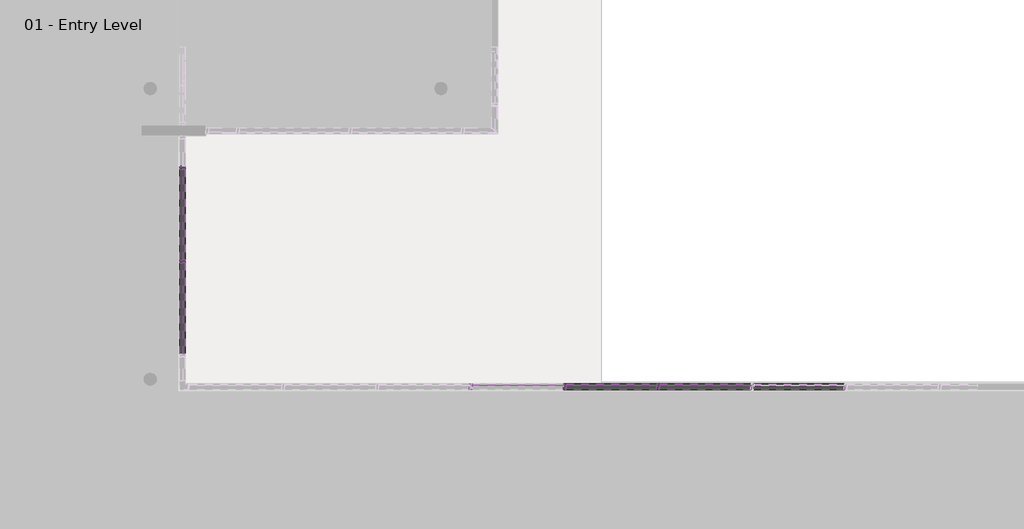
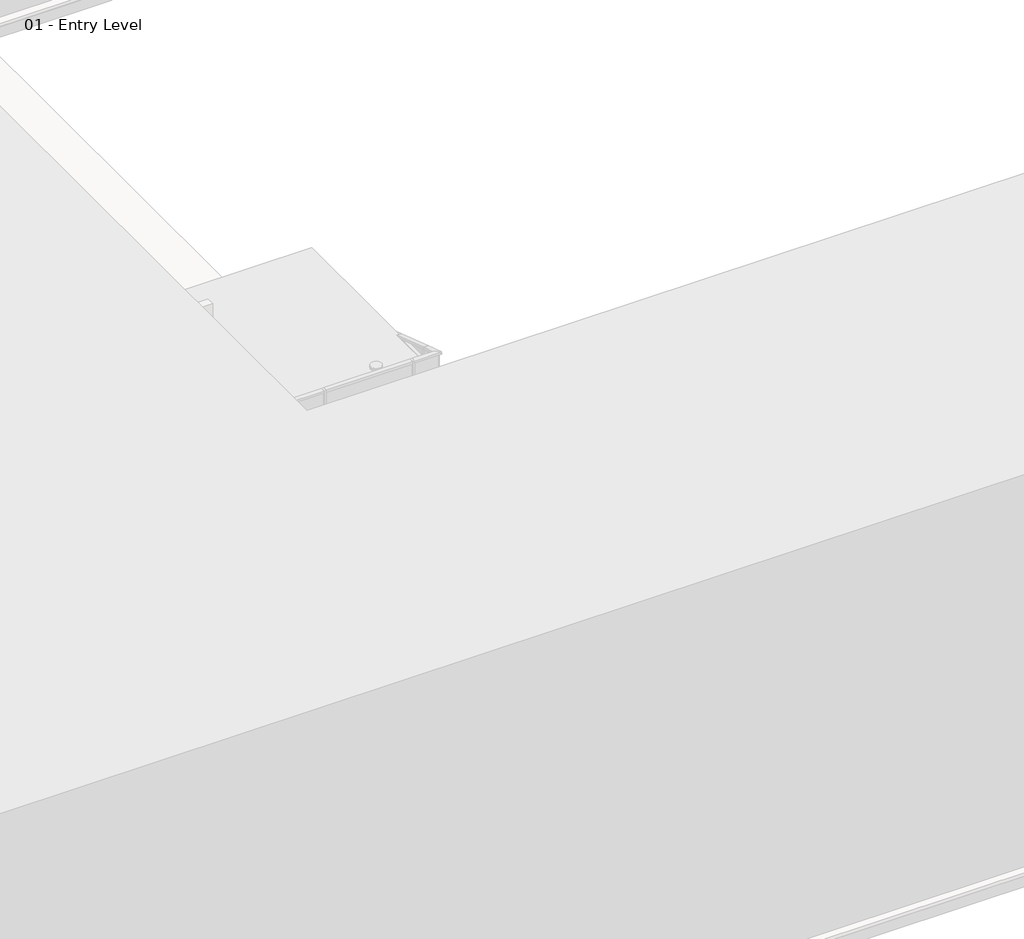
# One storey, part 10 of 35: 87 members, 45 plates.
"""IFC4 building model written with IfcOpenShell, lengths in millimetres."""

from ifc_helpers import new_model, si_unit, origin, place, context, project, spatial, transform, mapped, element, save
from components import member_2b49869a, member_391b434c, member_9e90ae50, member_e5d39754, system_panel_glazed_1b9d6098, system_panel_glazed_70da479d

model = new_model("IFC4")

# Units and contexts
model_context = context("Model", 3, world=origin())
ifc_project = project(units=[si_unit("LENGTHUNIT", "METRE", prefix="MILLI")], contexts=[model_context])

# Site, building, storey
site = spatial("IfcSite", under=ifc_project)
building = spatial("IfcBuilding", under=site)
storey = spatial("IfcBuildingStorey", under=building, Name="01 - Entry Level", Elevation=0.0)

# Members
placement = place(None, origin())
member_shape = member_2b49869a(model_context)
element("IfcMember", 1, ObjectType="Rectangular Mullion : 2.5\" x 5\" rectangular", at=placement, inside=storey, context=model_context, shape_type="MappedRepresentation", body=[
    mapped(member_shape, transform((27496.4207476, 11001.3, 9753.6), x_axis=(-1.0, 0.0, 0.0), y_axis=(0.0, 1.0, 0.0), z_axis=(0.0, 0.0, -1.0))),
])
element("IfcMember", 2, ObjectType="Rectangular Mullion : 2.5\" x 5\" rectangular", at=placement, inside=storey, context=model_context, shape_type="MappedRepresentation", body=[
    mapped(member_shape, transform((25464.4207476, 11001.3, 9753.6), x_axis=(-1.0, 0.0, 0.0), y_axis=(0.0, 1.0, 0.0), z_axis=(0.0, 0.0, -1.0))),
])
element("IfcMember", 3, ObjectType="Rectangular Mullion : 2.5\" x 5\" rectangular", at=placement, inside=storey, context=model_context, shape_type="MappedRepresentation", body=[
    mapped(member_shape, transform((23432.4207476, 11001.3, 9753.6), x_axis=(-1.0, 0.0, 0.0), y_axis=(0.0, 1.0, 0.0), z_axis=(0.0, 0.0, -1.0))),
])
element("IfcMember", 4, ObjectType="Rectangular Mullion : 2.5\" x 5\" rectangular", at=placement, inside=storey, context=model_context, shape_type="MappedRepresentation", body=[
    mapped(member_shape, transform((17184.0207476, 13719.1, 9753.6), x_axis=(0.0, 1.0, 0.0), y_axis=(1.0, 0.0, 0.0), z_axis=(0.0, 0.0, -1.0))),
])
element("IfcMember", 5, ObjectType="Rectangular Mullion : 2.5\" x 5\" rectangular", at=placement, inside=storey, context=model_context, shape_type="MappedRepresentation", body=[
    mapped(member_shape, transform((17184.0207476, 15751.1, 9753.6), x_axis=(0.0, 1.0, 0.0), y_axis=(1.0, 0.0, 0.0), z_axis=(0.0, 0.0, -1.0))),
])
member_2_shape = member_391b434c(model_context)
element("IfcMember", 6, ObjectType="Rectangular Mullion : 2.5\" x 5\" rectangular", at=placement, inside=storey, context=model_context, shape_type="MappedRepresentation", body=[
    mapped(member_2_shape, transform((29560.1707476, 11001.3, 10972.8), x_axis=(0.0, 0.0, 1.0), y_axis=(0.0, 1.0, 0.0), z_axis=(-1.0, 0.0, 0.0))),
])
element("IfcMember", 7, ObjectType="Rectangular Mullion : 2.5\" x 5\" rectangular", at=placement, inside=storey, context=model_context, shape_type="MappedRepresentation", body=[
    mapped(member_2_shape, transform((27528.1707476, 11001.3, 10972.8), x_axis=(0.0, 0.0, 1.0), y_axis=(0.0, 1.0, 0.0), z_axis=(-1.0, 0.0, 0.0))),
])
element("IfcMember", 8, ObjectType="Rectangular Mullion : 2.5\" x 5\" rectangular", at=placement, inside=storey, context=model_context, shape_type="MappedRepresentation", body=[
    mapped(member_2_shape, transform((25496.1707476, 11001.3, 10972.8), x_axis=(0.0, 0.0, 1.0), y_axis=(0.0, 1.0, 0.0), z_axis=(-1.0, 0.0, 0.0))),
])
element("IfcMember", 9, ObjectType="Rectangular Mullion : 2.5\" x 5\" rectangular", at=placement, inside=storey, context=model_context, shape_type="MappedRepresentation", body=[
    mapped(member_2_shape, transform((17184.0207476, 13687.35, 10972.8), x_axis=(0.0, 0.0, 1.0), y_axis=(1.0, 0.0, 0.0), z_axis=(0.0, 1.0, 0.0))),
])
element("IfcMember", 10, ObjectType="Rectangular Mullion : 2.5\" x 5\" rectangular", at=placement, inside=storey, context=model_context, shape_type="MappedRepresentation", body=[
    mapped(member_2_shape, transform((17184.0207476, 15719.35, 10972.8), x_axis=(0.0, 0.0, 1.0), y_axis=(1.0, 0.0, 0.0), z_axis=(0.0, 1.0, 0.0))),
])
element("IfcMember", 11, ObjectType="Rectangular Mullion : 2.5\" x 5\" rectangular", at=placement, inside=storey, context=model_context, shape_type="MappedRepresentation", body=[
    mapped(member_2_shape, transform((29496.6707476, 11001.3, 0.0), x_axis=(0.0, 0.0, -1.0), y_axis=(0.0, 1.0, 0.0), z_axis=(1.0, 0.0, 0.0))),
])
element("IfcMember", 12, ObjectType="Rectangular Mullion : 2.5\" x 5\" rectangular", at=placement, inside=storey, context=model_context, shape_type="MappedRepresentation", body=[
    mapped(member_2_shape, transform((27464.6707476, 11001.3, 0.0), x_axis=(0.0, 0.0, -1.0), y_axis=(0.0, 1.0, 0.0), z_axis=(1.0, 0.0, 0.0))),
])
element("IfcMember", 13, ObjectType="Rectangular Mullion : 2.5\" x 5\" rectangular", at=placement, inside=storey, context=model_context, shape_type="MappedRepresentation", body=[
    mapped(member_2_shape, transform((25432.6707476, 11001.3, 0.0), x_axis=(0.0, 0.0, -1.0), y_axis=(0.0, 1.0, 0.0), z_axis=(1.0, 0.0, 0.0))),
])
element("IfcMember", 14, ObjectType="Rectangular Mullion : 2.5\" x 5\" rectangular", at=placement, inside=storey, context=model_context, shape_type="MappedRepresentation", body=[
    mapped(member_2_shape, transform((17184.0207476, 13750.85, 0.0), x_axis=(0.0, 0.0, -1.0), y_axis=(1.0, 0.0, 0.0), z_axis=(0.0, -1.0, 0.0))),
])
member_3_shape = member_9e90ae50(model_context)
element("IfcMember", 15, ObjectType="Rectangular Mullion : 2.5\" x 5\" rectangular", at=placement, inside=storey, context=model_context, shape_type="MappedRepresentation", body=[
    mapped(member_3_shape, transform((29560.1707476, 11001.3, 1219.2), x_axis=(0.0, 0.0, 1.0), y_axis=(0.0, 1.0, 0.0), z_axis=(-1.0, 0.0, 0.0))),
])
element("IfcMember", 16, ObjectType="Rectangular Mullion : 2.5\" x 5\" rectangular", at=placement, inside=storey, context=model_context, shape_type="MappedRepresentation", body=[
    mapped(member_3_shape, transform((27528.1707476, 11001.3, 1219.2), x_axis=(0.0, 0.0, 1.0), y_axis=(0.0, 1.0, 0.0), z_axis=(-1.0, 0.0, 0.0))),
])
element("IfcMember", 17, ObjectType="Rectangular Mullion : 2.5\" x 5\" rectangular", at=placement, inside=storey, context=model_context, shape_type="MappedRepresentation", body=[
    mapped(member_3_shape, transform((25496.1707476, 11001.3, 1219.2), x_axis=(0.0, 0.0, 1.0), y_axis=(0.0, 1.0, 0.0), z_axis=(-1.0, 0.0, 0.0))),
])
element("IfcMember", 18, ObjectType="Rectangular Mullion : 2.5\" x 5\" rectangular", at=placement, inside=storey, context=model_context, shape_type="MappedRepresentation", body=[
    mapped(member_3_shape, transform((29560.1707476, 11001.3, 2438.4), x_axis=(0.0, 0.0, 1.0), y_axis=(0.0, 1.0, 0.0), z_axis=(-1.0, 0.0, 0.0))),
])
element("IfcMember", 19, ObjectType="Rectangular Mullion : 2.5\" x 5\" rectangular", at=placement, inside=storey, context=model_context, shape_type="MappedRepresentation", body=[
    mapped(member_3_shape, transform((27528.1707476, 11001.3, 2438.4), x_axis=(0.0, 0.0, 1.0), y_axis=(0.0, 1.0, 0.0), z_axis=(-1.0, 0.0, 0.0))),
])
element("IfcMember", 20, ObjectType="Rectangular Mullion : 2.5\" x 5\" rectangular", at=placement, inside=storey, context=model_context, shape_type="MappedRepresentation", body=[
    mapped(member_3_shape, transform((25496.1707476, 11001.3, 2438.4), x_axis=(0.0, 0.0, 1.0), y_axis=(0.0, 1.0, 0.0), z_axis=(-1.0, 0.0, 0.0))),
])
element("IfcMember", 21, ObjectType="Rectangular Mullion : 2.5\" x 5\" rectangular", at=placement, inside=storey, context=model_context, shape_type="MappedRepresentation", body=[
    mapped(member_3_shape, transform((29560.1707476, 11001.3, 3657.6), x_axis=(0.0, 0.0, 1.0), y_axis=(0.0, 1.0, 0.0), z_axis=(-1.0, 0.0, 0.0))),
])
element("IfcMember", 22, ObjectType="Rectangular Mullion : 2.5\" x 5\" rectangular", at=placement, inside=storey, context=model_context, shape_type="MappedRepresentation", body=[
    mapped(member_3_shape, transform((27528.1707476, 11001.3, 3657.6), x_axis=(0.0, 0.0, 1.0), y_axis=(0.0, 1.0, 0.0), z_axis=(-1.0, 0.0, 0.0))),
])
element("IfcMember", 23, ObjectType="Rectangular Mullion : 2.5\" x 5\" rectangular", at=placement, inside=storey, context=model_context, shape_type="MappedRepresentation", body=[
    mapped(member_3_shape, transform((25496.1707476, 11001.3, 3657.6), x_axis=(0.0, 0.0, 1.0), y_axis=(0.0, 1.0, 0.0), z_axis=(-1.0, 0.0, 0.0))),
])
element("IfcMember", 24, ObjectType="Rectangular Mullion : 2.5\" x 5\" rectangular", at=placement, inside=storey, context=model_context, shape_type="MappedRepresentation", body=[
    mapped(member_3_shape, transform((29560.1707476, 11001.3, 4876.8), x_axis=(0.0, 0.0, 1.0), y_axis=(0.0, 1.0, 0.0), z_axis=(-1.0, 0.0, 0.0))),
])
element("IfcMember", 25, ObjectType="Rectangular Mullion : 2.5\" x 5\" rectangular", at=placement, inside=storey, context=model_context, shape_type="MappedRepresentation", body=[
    mapped(member_3_shape, transform((27528.1707476, 11001.3, 4876.8), x_axis=(0.0, 0.0, 1.0), y_axis=(0.0, 1.0, 0.0), z_axis=(-1.0, 0.0, 0.0))),
])
element("IfcMember", 26, ObjectType="Rectangular Mullion : 2.5\" x 5\" rectangular", at=placement, inside=storey, context=model_context, shape_type="MappedRepresentation", body=[
    mapped(member_3_shape, transform((25496.1707476, 11001.3, 4876.8), x_axis=(0.0, 0.0, 1.0), y_axis=(0.0, 1.0, 0.0), z_axis=(-1.0, 0.0, 0.0))),
])
element("IfcMember", 27, ObjectType="Rectangular Mullion : 2.5\" x 5\" rectangular", at=placement, inside=storey, context=model_context, shape_type="MappedRepresentation", body=[
    mapped(member_3_shape, transform((29560.1707476, 11001.3, 6096.0), x_axis=(0.0, 0.0, 1.0), y_axis=(0.0, 1.0, 0.0), z_axis=(-1.0, 0.0, 0.0))),
])
element("IfcMember", 28, ObjectType="Rectangular Mullion : 2.5\" x 5\" rectangular", at=placement, inside=storey, context=model_context, shape_type="MappedRepresentation", body=[
    mapped(member_3_shape, transform((27528.1707476, 11001.3, 6096.0), x_axis=(0.0, 0.0, 1.0), y_axis=(0.0, 1.0, 0.0), z_axis=(-1.0, 0.0, 0.0))),
])
element("IfcMember", 29, ObjectType="Rectangular Mullion : 2.5\" x 5\" rectangular", at=placement, inside=storey, context=model_context, shape_type="MappedRepresentation", body=[
    mapped(member_3_shape, transform((25496.1707476, 11001.3, 6096.0), x_axis=(0.0, 0.0, 1.0), y_axis=(0.0, 1.0, 0.0), z_axis=(-1.0, 0.0, 0.0))),
])
element("IfcMember", 30, ObjectType="Rectangular Mullion : 2.5\" x 5\" rectangular", at=placement, inside=storey, context=model_context, shape_type="MappedRepresentation", body=[
    mapped(member_3_shape, transform((29560.1707476, 11001.3, 7315.2), x_axis=(0.0, 0.0, 1.0), y_axis=(0.0, 1.0, 0.0), z_axis=(-1.0, 0.0, 0.0))),
])
element("IfcMember", 31, ObjectType="Rectangular Mullion : 2.5\" x 5\" rectangular", at=placement, inside=storey, context=model_context, shape_type="MappedRepresentation", body=[
    mapped(member_3_shape, transform((27528.1707476, 11001.3, 7315.2), x_axis=(0.0, 0.0, 1.0), y_axis=(0.0, 1.0, 0.0), z_axis=(-1.0, 0.0, 0.0))),
])
element("IfcMember", 32, ObjectType="Rectangular Mullion : 2.5\" x 5\" rectangular", at=placement, inside=storey, context=model_context, shape_type="MappedRepresentation", body=[
    mapped(member_3_shape, transform((25496.1707476, 11001.3, 7315.2), x_axis=(0.0, 0.0, 1.0), y_axis=(0.0, 1.0, 0.0), z_axis=(-1.0, 0.0, 0.0))),
])
element("IfcMember", 33, ObjectType="Rectangular Mullion : 2.5\" x 5\" rectangular", at=placement, inside=storey, context=model_context, shape_type="MappedRepresentation", body=[
    mapped(member_3_shape, transform((29560.1707476, 11001.3, 8534.4), x_axis=(0.0, 0.0, 1.0), y_axis=(0.0, 1.0, 0.0), z_axis=(-1.0, 0.0, 0.0))),
])
element("IfcMember", 34, ObjectType="Rectangular Mullion : 2.5\" x 5\" rectangular", at=placement, inside=storey, context=model_context, shape_type="MappedRepresentation", body=[
    mapped(member_3_shape, transform((27528.1707476, 11001.3, 8534.4), x_axis=(0.0, 0.0, 1.0), y_axis=(0.0, 1.0, 0.0), z_axis=(-1.0, 0.0, 0.0))),
])
element("IfcMember", 35, ObjectType="Rectangular Mullion : 2.5\" x 5\" rectangular", at=placement, inside=storey, context=model_context, shape_type="MappedRepresentation", body=[
    mapped(member_3_shape, transform((25496.1707476, 11001.3, 8534.4), x_axis=(0.0, 0.0, 1.0), y_axis=(0.0, 1.0, 0.0), z_axis=(-1.0, 0.0, 0.0))),
])
element("IfcMember", 36, ObjectType="Rectangular Mullion : 2.5\" x 5\" rectangular", at=placement, inside=storey, context=model_context, shape_type="MappedRepresentation", body=[
    mapped(member_3_shape, transform((29560.1707476, 11001.3, 9753.6), x_axis=(0.0, 0.0, 1.0), y_axis=(0.0, 1.0, 0.0), z_axis=(-1.0, 0.0, 0.0))),
])
element("IfcMember", 37, ObjectType="Rectangular Mullion : 2.5\" x 5\" rectangular", at=placement, inside=storey, context=model_context, shape_type="MappedRepresentation", body=[
    mapped(member_3_shape, transform((27528.1707476, 11001.3, 9753.6), x_axis=(0.0, 0.0, 1.0), y_axis=(0.0, 1.0, 0.0), z_axis=(-1.0, 0.0, 0.0))),
])
element("IfcMember", 38, ObjectType="Rectangular Mullion : 2.5\" x 5\" rectangular", at=placement, inside=storey, context=model_context, shape_type="MappedRepresentation", body=[
    mapped(member_3_shape, transform((25496.1707476, 11001.3, 9753.6), x_axis=(0.0, 0.0, 1.0), y_axis=(0.0, 1.0, 0.0), z_axis=(-1.0, 0.0, 0.0))),
])
element("IfcMember", 39, ObjectType="Rectangular Mullion : 2.5\" x 5\" rectangular", at=placement, inside=storey, context=model_context, shape_type="MappedRepresentation", body=[
    mapped(member_3_shape, transform((17184.0207476, 13687.35, 1219.2), x_axis=(0.0, 0.0, 1.0), y_axis=(1.0, 0.0, 0.0), z_axis=(0.0, 1.0, 0.0))),
])
element("IfcMember", 40, ObjectType="Rectangular Mullion : 2.5\" x 5\" rectangular", at=placement, inside=storey, context=model_context, shape_type="MappedRepresentation", body=[
    mapped(member_3_shape, transform((17184.0207476, 15719.35, 1219.2), x_axis=(0.0, 0.0, 1.0), y_axis=(1.0, 0.0, 0.0), z_axis=(0.0, 1.0, 0.0))),
])
element("IfcMember", 41, ObjectType="Rectangular Mullion : 2.5\" x 5\" rectangular", at=placement, inside=storey, context=model_context, shape_type="MappedRepresentation", body=[
    mapped(member_3_shape, transform((17184.0207476, 13687.35, 2438.4), x_axis=(0.0, 0.0, 1.0), y_axis=(1.0, 0.0, 0.0), z_axis=(0.0, 1.0, 0.0))),
])
element("IfcMember", 42, ObjectType="Rectangular Mullion : 2.5\" x 5\" rectangular", at=placement, inside=storey, context=model_context, shape_type="MappedRepresentation", body=[
    mapped(member_3_shape, transform((17184.0207476, 15719.35, 2438.4), x_axis=(0.0, 0.0, 1.0), y_axis=(1.0, 0.0, 0.0), z_axis=(0.0, 1.0, 0.0))),
])
element("IfcMember", 43, ObjectType="Rectangular Mullion : 2.5\" x 5\" rectangular", at=placement, inside=storey, context=model_context, shape_type="MappedRepresentation", body=[
    mapped(member_3_shape, transform((17184.0207476, 13687.35, 3657.6), x_axis=(0.0, 0.0, 1.0), y_axis=(1.0, 0.0, 0.0), z_axis=(0.0, 1.0, 0.0))),
])
element("IfcMember", 44, ObjectType="Rectangular Mullion : 2.5\" x 5\" rectangular", at=placement, inside=storey, context=model_context, shape_type="MappedRepresentation", body=[
    mapped(member_3_shape, transform((17184.0207476, 15719.35, 3657.6), x_axis=(0.0, 0.0, 1.0), y_axis=(1.0, 0.0, 0.0), z_axis=(0.0, 1.0, 0.0))),
])
element("IfcMember", 45, ObjectType="Rectangular Mullion : 2.5\" x 5\" rectangular", at=placement, inside=storey, context=model_context, shape_type="MappedRepresentation", body=[
    mapped(member_3_shape, transform((17184.0207476, 13687.35, 4876.8), x_axis=(0.0, 0.0, 1.0), y_axis=(1.0, 0.0, 0.0), z_axis=(0.0, 1.0, 0.0))),
])
element("IfcMember", 46, ObjectType="Rectangular Mullion : 2.5\" x 5\" rectangular", at=placement, inside=storey, context=model_context, shape_type="MappedRepresentation", body=[
    mapped(member_3_shape, transform((17184.0207476, 15719.35, 4876.8), x_axis=(0.0, 0.0, 1.0), y_axis=(1.0, 0.0, 0.0), z_axis=(0.0, 1.0, 0.0))),
])
element("IfcMember", 47, ObjectType="Rectangular Mullion : 2.5\" x 5\" rectangular", at=placement, inside=storey, context=model_context, shape_type="MappedRepresentation", body=[
    mapped(member_3_shape, transform((17184.0207476, 13687.35, 6096.0), x_axis=(0.0, 0.0, 1.0), y_axis=(1.0, 0.0, 0.0), z_axis=(0.0, 1.0, 0.0))),
])
element("IfcMember", 48, ObjectType="Rectangular Mullion : 2.5\" x 5\" rectangular", at=placement, inside=storey, context=model_context, shape_type="MappedRepresentation", body=[
    mapped(member_3_shape, transform((17184.0207476, 15719.35, 6096.0), x_axis=(0.0, 0.0, 1.0), y_axis=(1.0, 0.0, 0.0), z_axis=(0.0, 1.0, 0.0))),
])
element("IfcMember", 49, ObjectType="Rectangular Mullion : 2.5\" x 5\" rectangular", at=placement, inside=storey, context=model_context, shape_type="MappedRepresentation", body=[
    mapped(member_3_shape, transform((17184.0207476, 13687.35, 7315.2), x_axis=(0.0, 0.0, 1.0), y_axis=(1.0, 0.0, 0.0), z_axis=(0.0, 1.0, 0.0))),
])
element("IfcMember", 50, ObjectType="Rectangular Mullion : 2.5\" x 5\" rectangular", at=placement, inside=storey, context=model_context, shape_type="MappedRepresentation", body=[
    mapped(member_3_shape, transform((17184.0207476, 15719.35, 7315.2), x_axis=(0.0, 0.0, 1.0), y_axis=(1.0, 0.0, 0.0), z_axis=(0.0, 1.0, 0.0))),
])
element("IfcMember", 51, ObjectType="Rectangular Mullion : 2.5\" x 5\" rectangular", at=placement, inside=storey, context=model_context, shape_type="MappedRepresentation", body=[
    mapped(member_3_shape, transform((17184.0207476, 13687.35, 8534.4), x_axis=(0.0, 0.0, 1.0), y_axis=(1.0, 0.0, 0.0), z_axis=(0.0, 1.0, 0.0))),
])
element("IfcMember", 52, ObjectType="Rectangular Mullion : 2.5\" x 5\" rectangular", at=placement, inside=storey, context=model_context, shape_type="MappedRepresentation", body=[
    mapped(member_3_shape, transform((17184.0207476, 15719.35, 8534.4), x_axis=(0.0, 0.0, 1.0), y_axis=(1.0, 0.0, 0.0), z_axis=(0.0, 1.0, 0.0))),
])
element("IfcMember", 53, ObjectType="Rectangular Mullion : 2.5\" x 5\" rectangular", at=placement, inside=storey, context=model_context, shape_type="MappedRepresentation", body=[
    mapped(member_3_shape, transform((17184.0207476, 13687.35, 9753.6), x_axis=(0.0, 0.0, 1.0), y_axis=(1.0, 0.0, 0.0), z_axis=(0.0, 1.0, 0.0))),
])
element("IfcMember", 54, ObjectType="Rectangular Mullion : 2.5\" x 5\" rectangular", at=placement, inside=storey, context=model_context, shape_type="MappedRepresentation", body=[
    mapped(member_3_shape, transform((17184.0207476, 15719.35, 9753.6), x_axis=(0.0, 0.0, 1.0), y_axis=(1.0, 0.0, 0.0), z_axis=(0.0, 1.0, 0.0))),
])
element("IfcMember", 55, ObjectType="Rectangular Mullion : 2.5\" x 5\" rectangular", at=placement, inside=storey, context=model_context, shape_type="MappedRepresentation", body=[
    mapped(member_shape, transform((27496.4207476, 11001.3, 0.0), x_axis=(-1.0, 0.0, 0.0), y_axis=(0.0, 1.0, 0.0), z_axis=(0.0, 0.0, -1.0))),
])
element("IfcMember", 56, ObjectType="Rectangular Mullion : 2.5\" x 5\" rectangular", at=placement, inside=storey, context=model_context, shape_type="MappedRepresentation", body=[
    mapped(member_shape, transform((25464.4207476, 11001.3, 0.0), x_axis=(-1.0, 0.0, 0.0), y_axis=(0.0, 1.0, 0.0), z_axis=(0.0, 0.0, -1.0))),
])
element("IfcMember", 57, ObjectType="Rectangular Mullion : 2.5\" x 5\" rectangular", at=placement, inside=storey, context=model_context, shape_type="MappedRepresentation", body=[
    mapped(member_shape, transform((17184.0207476, 13719.1, 0.0), x_axis=(0.0, 1.0, 0.0), y_axis=(1.0, 0.0, 0.0), z_axis=(0.0, 0.0, -1.0))),
])
element("IfcMember", 58, ObjectType="Rectangular Mullion : 2.5\" x 5\" rectangular", at=placement, inside=storey, context=model_context, shape_type="MappedRepresentation", body=[
    mapped(member_shape, transform((17184.0207476, 15751.1, 0.0), x_axis=(0.0, 1.0, 0.0), y_axis=(1.0, 0.0, 0.0), z_axis=(0.0, 0.0, -1.0))),
])
element("IfcMember", 59, ObjectType="Rectangular Mullion : 2.5\" x 5\" rectangular", at=placement, inside=storey, context=model_context, shape_type="MappedRepresentation", body=[
    mapped(member_shape, transform((27496.4207476, 11001.3, 1219.2), x_axis=(-1.0, 0.0, 0.0), y_axis=(0.0, 1.0, 0.0), z_axis=(0.0, 0.0, -1.0))),
])
element("IfcMember", 60, ObjectType="Rectangular Mullion : 2.5\" x 5\" rectangular", at=placement, inside=storey, context=model_context, shape_type="MappedRepresentation", body=[
    mapped(member_shape, transform((25464.4207476, 11001.3, 1219.2), x_axis=(-1.0, 0.0, 0.0), y_axis=(0.0, 1.0, 0.0), z_axis=(0.0, 0.0, -1.0))),
])
element("IfcMember", 61, ObjectType="Rectangular Mullion : 2.5\" x 5\" rectangular", at=placement, inside=storey, context=model_context, shape_type="MappedRepresentation", body=[
    mapped(member_shape, transform((27496.4207476, 11001.3, 2438.4), x_axis=(-1.0, 0.0, 0.0), y_axis=(0.0, 1.0, 0.0), z_axis=(0.0, 0.0, -1.0))),
])
element("IfcMember", 62, ObjectType="Rectangular Mullion : 2.5\" x 5\" rectangular", at=placement, inside=storey, context=model_context, shape_type="MappedRepresentation", body=[
    mapped(member_shape, transform((25464.4207476, 11001.3, 2438.4), x_axis=(-1.0, 0.0, 0.0), y_axis=(0.0, 1.0, 0.0), z_axis=(0.0, 0.0, -1.0))),
])
element("IfcMember", 63, ObjectType="Rectangular Mullion : 2.5\" x 5\" rectangular", at=placement, inside=storey, context=model_context, shape_type="MappedRepresentation", body=[
    mapped(member_shape, transform((27496.4207476, 11001.3, 3657.6), x_axis=(-1.0, 0.0, 0.0), y_axis=(0.0, 1.0, 0.0), z_axis=(0.0, 0.0, -1.0))),
])
element("IfcMember", 64, ObjectType="Rectangular Mullion : 2.5\" x 5\" rectangular", at=placement, inside=storey, context=model_context, shape_type="MappedRepresentation", body=[
    mapped(member_shape, transform((25464.4207476, 11001.3, 3657.6), x_axis=(-1.0, 0.0, 0.0), y_axis=(0.0, 1.0, 0.0), z_axis=(0.0, 0.0, -1.0))),
])
element("IfcMember", 65, ObjectType="Rectangular Mullion : 2.5\" x 5\" rectangular", at=placement, inside=storey, context=model_context, shape_type="MappedRepresentation", body=[
    mapped(member_shape, transform((27496.4207476, 11001.3, 4876.8), x_axis=(-1.0, 0.0, 0.0), y_axis=(0.0, 1.0, 0.0), z_axis=(0.0, 0.0, -1.0))),
])
element("IfcMember", 66, ObjectType="Rectangular Mullion : 2.5\" x 5\" rectangular", at=placement, inside=storey, context=model_context, shape_type="MappedRepresentation", body=[
    mapped(member_shape, transform((25464.4207476, 11001.3, 4876.8), x_axis=(-1.0, 0.0, 0.0), y_axis=(0.0, 1.0, 0.0), z_axis=(0.0, 0.0, -1.0))),
])
element("IfcMember", 67, ObjectType="Rectangular Mullion : 2.5\" x 5\" rectangular", at=placement, inside=storey, context=model_context, shape_type="MappedRepresentation", body=[
    mapped(member_shape, transform((27496.4207476, 11001.3, 6096.0), x_axis=(-1.0, 0.0, 0.0), y_axis=(0.0, 1.0, 0.0), z_axis=(0.0, 0.0, -1.0))),
])
element("IfcMember", 68, ObjectType="Rectangular Mullion : 2.5\" x 5\" rectangular", at=placement, inside=storey, context=model_context, shape_type="MappedRepresentation", body=[
    mapped(member_shape, transform((25464.4207476, 11001.3, 6096.0), x_axis=(-1.0, 0.0, 0.0), y_axis=(0.0, 1.0, 0.0), z_axis=(0.0, 0.0, -1.0))),
])
element("IfcMember", 69, ObjectType="Rectangular Mullion : 2.5\" x 5\" rectangular", at=placement, inside=storey, context=model_context, shape_type="MappedRepresentation", body=[
    mapped(member_shape, transform((27496.4207476, 11001.3, 7315.2), x_axis=(-1.0, 0.0, 0.0), y_axis=(0.0, 1.0, 0.0), z_axis=(0.0, 0.0, -1.0))),
])
element("IfcMember", 70, ObjectType="Rectangular Mullion : 2.5\" x 5\" rectangular", at=placement, inside=storey, context=model_context, shape_type="MappedRepresentation", body=[
    mapped(member_shape, transform((25464.4207476, 11001.3, 7315.2), x_axis=(-1.0, 0.0, 0.0), y_axis=(0.0, 1.0, 0.0), z_axis=(0.0, 0.0, -1.0))),
])
element("IfcMember", 71, ObjectType="Rectangular Mullion : 2.5\" x 5\" rectangular", at=placement, inside=storey, context=model_context, shape_type="MappedRepresentation", body=[
    mapped(member_shape, transform((27496.4207476, 11001.3, 8534.4), x_axis=(-1.0, 0.0, 0.0), y_axis=(0.0, 1.0, 0.0), z_axis=(0.0, 0.0, -1.0))),
])
element("IfcMember", 72, ObjectType="Rectangular Mullion : 2.5\" x 5\" rectangular", at=placement, inside=storey, context=model_context, shape_type="MappedRepresentation", body=[
    mapped(member_shape, transform((25464.4207476, 11001.3, 8534.4), x_axis=(-1.0, 0.0, 0.0), y_axis=(0.0, 1.0, 0.0), z_axis=(0.0, 0.0, -1.0))),
])
element("IfcMember", 73, ObjectType="Rectangular Mullion : 2.5\" x 5\" rectangular", at=placement, inside=storey, context=model_context, shape_type="MappedRepresentation", body=[
    mapped(member_shape, transform((17184.0207476, 13719.1, 1219.2), x_axis=(0.0, 1.0, 0.0), y_axis=(1.0, 0.0, 0.0), z_axis=(0.0, 0.0, -1.0))),
])
element("IfcMember", 74, ObjectType="Rectangular Mullion : 2.5\" x 5\" rectangular", at=placement, inside=storey, context=model_context, shape_type="MappedRepresentation", body=[
    mapped(member_shape, transform((17184.0207476, 13719.1, 2438.4), x_axis=(0.0, 1.0, 0.0), y_axis=(1.0, 0.0, 0.0), z_axis=(0.0, 0.0, -1.0))),
])
element("IfcMember", 75, ObjectType="Rectangular Mullion : 2.5\" x 5\" rectangular", at=placement, inside=storey, context=model_context, shape_type="MappedRepresentation", body=[
    mapped(member_shape, transform((17184.0207476, 13719.1, 3657.6), x_axis=(0.0, 1.0, 0.0), y_axis=(1.0, 0.0, 0.0), z_axis=(0.0, 0.0, -1.0))),
])
element("IfcMember", 76, ObjectType="Rectangular Mullion : 2.5\" x 5\" rectangular", at=placement, inside=storey, context=model_context, shape_type="MappedRepresentation", body=[
    mapped(member_shape, transform((17184.0207476, 13719.1, 4876.8), x_axis=(0.0, 1.0, 0.0), y_axis=(1.0, 0.0, 0.0), z_axis=(0.0, 0.0, -1.0))),
])
element("IfcMember", 77, ObjectType="Rectangular Mullion : 2.5\" x 5\" rectangular", at=placement, inside=storey, context=model_context, shape_type="MappedRepresentation", body=[
    mapped(member_shape, transform((17184.0207476, 13719.1, 6096.0), x_axis=(0.0, 1.0, 0.0), y_axis=(1.0, 0.0, 0.0), z_axis=(0.0, 0.0, -1.0))),
])
element("IfcMember", 78, ObjectType="Rectangular Mullion : 2.5\" x 5\" rectangular", at=placement, inside=storey, context=model_context, shape_type="MappedRepresentation", body=[
    mapped(member_shape, transform((17184.0207476, 13719.1, 7315.2), x_axis=(0.0, 1.0, 0.0), y_axis=(1.0, 0.0, 0.0), z_axis=(0.0, 0.0, -1.0))),
])
element("IfcMember", 79, ObjectType="Rectangular Mullion : 2.5\" x 5\" rectangular", at=placement, inside=storey, context=model_context, shape_type="MappedRepresentation", body=[
    mapped(member_shape, transform((17184.0207476, 13719.1, 8534.4), x_axis=(0.0, 1.0, 0.0), y_axis=(1.0, 0.0, 0.0), z_axis=(0.0, 0.0, -1.0))),
])
element("IfcMember", 80, ObjectType="Rectangular Mullion : 2.5\" x 5\" rectangular", at=placement, inside=storey, context=model_context, shape_type="MappedRepresentation", body=[
    mapped(member_shape, transform((17184.0207476, 15751.1, 1219.2), x_axis=(0.0, 1.0, 0.0), y_axis=(1.0, 0.0, 0.0), z_axis=(0.0, 0.0, -1.0))),
])
element("IfcMember", 81, ObjectType="Rectangular Mullion : 2.5\" x 5\" rectangular", at=placement, inside=storey, context=model_context, shape_type="MappedRepresentation", body=[
    mapped(member_shape, transform((17184.0207476, 15751.1, 2438.4), x_axis=(0.0, 1.0, 0.0), y_axis=(1.0, 0.0, 0.0), z_axis=(0.0, 0.0, -1.0))),
])
element("IfcMember", 82, ObjectType="Rectangular Mullion : 2.5\" x 5\" rectangular", at=placement, inside=storey, context=model_context, shape_type="MappedRepresentation", body=[
    mapped(member_shape, transform((17184.0207476, 15751.1, 3657.6), x_axis=(0.0, 1.0, 0.0), y_axis=(1.0, 0.0, 0.0), z_axis=(0.0, 0.0, -1.0))),
])
element("IfcMember", 83, ObjectType="Rectangular Mullion : 2.5\" x 5\" rectangular", at=placement, inside=storey, context=model_context, shape_type="MappedRepresentation", body=[
    mapped(member_shape, transform((17184.0207476, 15751.1, 4876.8), x_axis=(0.0, 1.0, 0.0), y_axis=(1.0, 0.0, 0.0), z_axis=(0.0, 0.0, -1.0))),
])
element("IfcMember", 84, ObjectType="Rectangular Mullion : 2.5\" x 5\" rectangular", at=placement, inside=storey, context=model_context, shape_type="MappedRepresentation", body=[
    mapped(member_shape, transform((17184.0207476, 15751.1, 6096.0), x_axis=(0.0, 1.0, 0.0), y_axis=(1.0, 0.0, 0.0), z_axis=(0.0, 0.0, -1.0))),
])
element("IfcMember", 85, ObjectType="Rectangular Mullion : 2.5\" x 5\" rectangular", at=placement, inside=storey, context=model_context, shape_type="MappedRepresentation", body=[
    mapped(member_shape, transform((17184.0207476, 15751.1, 7315.2), x_axis=(0.0, 1.0, 0.0), y_axis=(1.0, 0.0, 0.0), z_axis=(0.0, 0.0, -1.0))),
])
element("IfcMember", 86, ObjectType="Rectangular Mullion : 2.5\" x 5\" rectangular", at=placement, inside=storey, context=model_context, shape_type="MappedRepresentation", body=[
    mapped(member_shape, transform((17184.0207476, 15751.1, 8534.4), x_axis=(0.0, 1.0, 0.0), y_axis=(1.0, 0.0, 0.0), z_axis=(0.0, 0.0, -1.0))),
])
member_4_shape = member_e5d39754(model_context)
element("IfcMember", 87, ObjectType="Rectangular Mullion : 2.5\" x 5\" rectangular", at=placement, inside=storey, context=model_context, shape_type="MappedRepresentation", body=[
    mapped(member_4_shape, transform((17184.0207476, 15782.85, 0.0), x_axis=(0.0, 0.0, -1.0), y_axis=(1.0, 0.0, 0.0), z_axis=(0.0, -1.0, 0.0))),
])

# Plates
system_panel_glazed_shape = system_panel_glazed_1b9d6098(model_context)
element("IfcPlate", 88, ObjectType="System Panel : Glazed", at=placement, inside=storey, context=model_context, shape_type="MappedRepresentation", body=[
    mapped(system_panel_glazed_shape, transform((28512.4207476, 11001.3, 63.5), x_axis=(-1.0, 0.0, 0.0), y_axis=(0.0, -1.0, 0.0), z_axis=(0.0, 0.0, 1.0))),
])
element("IfcPlate", 89, ObjectType="System Panel : Glazed", at=placement, inside=storey, context=model_context, shape_type="MappedRepresentation", body=[
    mapped(system_panel_glazed_shape, transform((26480.4207476, 11001.3, 63.5), x_axis=(-1.0, 0.0, 0.0), y_axis=(0.0, -1.0, 0.0), z_axis=(0.0, 0.0, 1.0))),
])
element("IfcPlate", 90, ObjectType="System Panel : Glazed", at=placement, inside=storey, context=model_context, shape_type="MappedRepresentation", body=[
    mapped(system_panel_glazed_shape, transform((24448.4207476, 11001.3, 63.5), x_axis=(-1.0, 0.0, 0.0), y_axis=(0.0, -1.0, 0.0), z_axis=(0.0, 0.0, 1.0))),
])
element("IfcPlate", 91, ObjectType="System Panel : Glazed", at=placement, inside=storey, context=model_context, shape_type="MappedRepresentation", body=[
    mapped(system_panel_glazed_shape, transform((28512.4207476, 11001.3, 9785.35), x_axis=(-1.0, 0.0, 0.0), y_axis=(0.0, -1.0, 0.0), z_axis=(0.0, 0.0, 1.0))),
])
element("IfcPlate", 92, ObjectType="System Panel : Glazed", at=placement, inside=storey, context=model_context, shape_type="MappedRepresentation", body=[
    mapped(system_panel_glazed_shape, transform((26480.4207476, 11001.3, 9785.35), x_axis=(-1.0, 0.0, 0.0), y_axis=(0.0, -1.0, 0.0), z_axis=(0.0, 0.0, 1.0))),
])
element("IfcPlate", 93, ObjectType="System Panel : Glazed", at=placement, inside=storey, context=model_context, shape_type="MappedRepresentation", body=[
    mapped(system_panel_glazed_shape, transform((24448.4207476, 11001.3, 9785.35), x_axis=(-1.0, 0.0, 0.0), y_axis=(0.0, -1.0, 0.0), z_axis=(0.0, 0.0, 1.0))),
])
element("IfcPlate", 94, ObjectType="System Panel : Glazed", at=placement, inside=storey, context=model_context, shape_type="MappedRepresentation", body=[
    mapped(system_panel_glazed_shape, transform((17184.0207476, 12703.1, 63.5), x_axis=(0.0, 1.0, 0.0), y_axis=(-1.0, 0.0, 0.0), z_axis=(0.0, 0.0, 1.0))),
])
element("IfcPlate", 95, ObjectType="System Panel : Glazed", at=placement, inside=storey, context=model_context, shape_type="MappedRepresentation", body=[
    mapped(system_panel_glazed_shape, transform((17184.0207476, 14735.1, 63.5), x_axis=(0.0, 1.0, 0.0), y_axis=(-1.0, 0.0, 0.0), z_axis=(0.0, 0.0, 1.0))),
])
element("IfcPlate", 96, ObjectType="System Panel : Glazed", at=placement, inside=storey, context=model_context, shape_type="MappedRepresentation", body=[
    mapped(system_panel_glazed_shape, transform((17184.0207476, 12703.1, 9785.35), x_axis=(0.0, 1.0, 0.0), y_axis=(-1.0, 0.0, 0.0), z_axis=(0.0, 0.0, 1.0))),
])
element("IfcPlate", 97, ObjectType="System Panel : Glazed", at=placement, inside=storey, context=model_context, shape_type="MappedRepresentation", body=[
    mapped(system_panel_glazed_shape, transform((17184.0207476, 14735.1, 9785.35), x_axis=(0.0, 1.0, 0.0), y_axis=(-1.0, 0.0, 0.0), z_axis=(0.0, 0.0, 1.0))),
])
system_panel_glazed_2_shape = system_panel_glazed_70da479d(model_context)
element("IfcPlate", 98, ObjectType="System Panel : Glazed", at=placement, inside=storey, context=model_context, shape_type="MappedRepresentation", body=[
    mapped(system_panel_glazed_2_shape, transform((28512.4207476, 11001.3, 1250.95), x_axis=(-1.0, 0.0, 0.0), y_axis=(0.0, -1.0, 0.0), z_axis=(0.0, 0.0, 1.0))),
])
element("IfcPlate", 99, ObjectType="System Panel : Glazed", at=placement, inside=storey, context=model_context, shape_type="MappedRepresentation", body=[
    mapped(system_panel_glazed_2_shape, transform((26480.4207476, 11001.3, 1250.95), x_axis=(-1.0, 0.0, 0.0), y_axis=(0.0, -1.0, 0.0), z_axis=(0.0, 0.0, 1.0))),
])
element("IfcPlate", 100, ObjectType="System Panel : Glazed", at=placement, inside=storey, context=model_context, shape_type="MappedRepresentation", body=[
    mapped(system_panel_glazed_2_shape, transform((24448.4207476, 11001.3, 1250.95), x_axis=(-1.0, 0.0, 0.0), y_axis=(0.0, -1.0, 0.0), z_axis=(0.0, 0.0, 1.0))),
])
element("IfcPlate", 101, ObjectType="System Panel : Glazed", at=placement, inside=storey, context=model_context, shape_type="MappedRepresentation", body=[
    mapped(system_panel_glazed_2_shape, transform((28512.4207476, 11001.3, 2470.15), x_axis=(-1.0, 0.0, 0.0), y_axis=(0.0, -1.0, 0.0), z_axis=(0.0, 0.0, 1.0))),
])
element("IfcPlate", 102, ObjectType="System Panel : Glazed", at=placement, inside=storey, context=model_context, shape_type="MappedRepresentation", body=[
    mapped(system_panel_glazed_2_shape, transform((26480.4207476, 11001.3, 2470.15), x_axis=(-1.0, 0.0, 0.0), y_axis=(0.0, -1.0, 0.0), z_axis=(0.0, 0.0, 1.0))),
])
element("IfcPlate", 103, ObjectType="System Panel : Glazed", at=placement, inside=storey, context=model_context, shape_type="MappedRepresentation", body=[
    mapped(system_panel_glazed_2_shape, transform((24448.4207476, 11001.3, 2470.15), x_axis=(-1.0, 0.0, 0.0), y_axis=(0.0, -1.0, 0.0), z_axis=(0.0, 0.0, 1.0))),
])
element("IfcPlate", 104, ObjectType="System Panel : Glazed", at=placement, inside=storey, context=model_context, shape_type="MappedRepresentation", body=[
    mapped(system_panel_glazed_2_shape, transform((28512.4207476, 11001.3, 3689.35), x_axis=(-1.0, 0.0, 0.0), y_axis=(0.0, -1.0, 0.0), z_axis=(0.0, 0.0, 1.0))),
])
element("IfcPlate", 105, ObjectType="System Panel : Glazed", at=placement, inside=storey, context=model_context, shape_type="MappedRepresentation", body=[
    mapped(system_panel_glazed_2_shape, transform((26480.4207476, 11001.3, 3689.35), x_axis=(-1.0, 0.0, 0.0), y_axis=(0.0, -1.0, 0.0), z_axis=(0.0, 0.0, 1.0))),
])
element("IfcPlate", 106, ObjectType="System Panel : Glazed", at=placement, inside=storey, context=model_context, shape_type="MappedRepresentation", body=[
    mapped(system_panel_glazed_2_shape, transform((24448.4207476, 11001.3, 3689.35), x_axis=(-1.0, 0.0, 0.0), y_axis=(0.0, -1.0, 0.0), z_axis=(0.0, 0.0, 1.0))),
])
element("IfcPlate", 107, ObjectType="System Panel : Glazed", at=placement, inside=storey, context=model_context, shape_type="MappedRepresentation", body=[
    mapped(system_panel_glazed_2_shape, transform((28512.4207476, 11001.3, 4908.55), x_axis=(-1.0, 0.0, 0.0), y_axis=(0.0, -1.0, 0.0), z_axis=(0.0, 0.0, 1.0))),
])
element("IfcPlate", 108, ObjectType="System Panel : Glazed", at=placement, inside=storey, context=model_context, shape_type="MappedRepresentation", body=[
    mapped(system_panel_glazed_2_shape, transform((26480.4207476, 11001.3, 4908.55), x_axis=(-1.0, 0.0, 0.0), y_axis=(0.0, -1.0, 0.0), z_axis=(0.0, 0.0, 1.0))),
])
element("IfcPlate", 109, ObjectType="System Panel : Glazed", at=placement, inside=storey, context=model_context, shape_type="MappedRepresentation", body=[
    mapped(system_panel_glazed_2_shape, transform((24448.4207476, 11001.3, 4908.55), x_axis=(-1.0, 0.0, 0.0), y_axis=(0.0, -1.0, 0.0), z_axis=(0.0, 0.0, 1.0))),
])
element("IfcPlate", 110, ObjectType="System Panel : Glazed", at=placement, inside=storey, context=model_context, shape_type="MappedRepresentation", body=[
    mapped(system_panel_glazed_2_shape, transform((28512.4207476, 11001.3, 6127.75), x_axis=(-1.0, 0.0, 0.0), y_axis=(0.0, -1.0, 0.0), z_axis=(0.0, 0.0, 1.0))),
])
element("IfcPlate", 111, ObjectType="System Panel : Glazed", at=placement, inside=storey, context=model_context, shape_type="MappedRepresentation", body=[
    mapped(system_panel_glazed_2_shape, transform((26480.4207476, 11001.3, 6127.75), x_axis=(-1.0, 0.0, 0.0), y_axis=(0.0, -1.0, 0.0), z_axis=(0.0, 0.0, 1.0))),
])
element("IfcPlate", 112, ObjectType="System Panel : Glazed", at=placement, inside=storey, context=model_context, shape_type="MappedRepresentation", body=[
    mapped(system_panel_glazed_2_shape, transform((24448.4207476, 11001.3, 6127.75), x_axis=(-1.0, 0.0, 0.0), y_axis=(0.0, -1.0, 0.0), z_axis=(0.0, 0.0, 1.0))),
])
element("IfcPlate", 113, ObjectType="System Panel : Glazed", at=placement, inside=storey, context=model_context, shape_type="MappedRepresentation", body=[
    mapped(system_panel_glazed_2_shape, transform((28512.4207476, 11001.3, 7346.95), x_axis=(-1.0, 0.0, 0.0), y_axis=(0.0, -1.0, 0.0), z_axis=(0.0, 0.0, 1.0))),
])
element("IfcPlate", 114, ObjectType="System Panel : Glazed", at=placement, inside=storey, context=model_context, shape_type="MappedRepresentation", body=[
    mapped(system_panel_glazed_2_shape, transform((26480.4207476, 11001.3, 7346.95), x_axis=(-1.0, 0.0, 0.0), y_axis=(0.0, -1.0, 0.0), z_axis=(0.0, 0.0, 1.0))),
])
element("IfcPlate", 115, ObjectType="System Panel : Glazed", at=placement, inside=storey, context=model_context, shape_type="MappedRepresentation", body=[
    mapped(system_panel_glazed_2_shape, transform((24448.4207476, 11001.3, 7346.95), x_axis=(-1.0, 0.0, 0.0), y_axis=(0.0, -1.0, 0.0), z_axis=(0.0, 0.0, 1.0))),
])
element("IfcPlate", 116, ObjectType="System Panel : Glazed", at=placement, inside=storey, context=model_context, shape_type="MappedRepresentation", body=[
    mapped(system_panel_glazed_2_shape, transform((28512.4207476, 11001.3, 8566.15), x_axis=(-1.0, 0.0, 0.0), y_axis=(0.0, -1.0, 0.0), z_axis=(0.0, 0.0, 1.0))),
])
element("IfcPlate", 117, ObjectType="System Panel : Glazed", at=placement, inside=storey, context=model_context, shape_type="MappedRepresentation", body=[
    mapped(system_panel_glazed_2_shape, transform((26480.4207476, 11001.3, 8566.15), x_axis=(-1.0, 0.0, 0.0), y_axis=(0.0, -1.0, 0.0), z_axis=(0.0, 0.0, 1.0))),
])
element("IfcPlate", 118, ObjectType="System Panel : Glazed", at=placement, inside=storey, context=model_context, shape_type="MappedRepresentation", body=[
    mapped(system_panel_glazed_2_shape, transform((24448.4207476, 11001.3, 8566.15), x_axis=(-1.0, 0.0, 0.0), y_axis=(0.0, -1.0, 0.0), z_axis=(0.0, 0.0, 1.0))),
])
element("IfcPlate", 119, ObjectType="System Panel : Glazed", at=placement, inside=storey, context=model_context, shape_type="MappedRepresentation", body=[
    mapped(system_panel_glazed_2_shape, transform((17184.0207476, 12703.1, 1250.95), x_axis=(0.0, 1.0, 0.0), y_axis=(-1.0, 0.0, 0.0), z_axis=(0.0, 0.0, 1.0))),
])
element("IfcPlate", 120, ObjectType="System Panel : Glazed", at=placement, inside=storey, context=model_context, shape_type="MappedRepresentation", body=[
    mapped(system_panel_glazed_2_shape, transform((17184.0207476, 14735.1, 1250.95), x_axis=(0.0, 1.0, 0.0), y_axis=(-1.0, 0.0, 0.0), z_axis=(0.0, 0.0, 1.0))),
])
element("IfcPlate", 121, ObjectType="System Panel : Glazed", at=placement, inside=storey, context=model_context, shape_type="MappedRepresentation", body=[
    mapped(system_panel_glazed_2_shape, transform((17184.0207476, 12703.1, 2470.15), x_axis=(0.0, 1.0, 0.0), y_axis=(-1.0, 0.0, 0.0), z_axis=(0.0, 0.0, 1.0))),
])
element("IfcPlate", 122, ObjectType="System Panel : Glazed", at=placement, inside=storey, context=model_context, shape_type="MappedRepresentation", body=[
    mapped(system_panel_glazed_2_shape, transform((17184.0207476, 14735.1, 2470.15), x_axis=(0.0, 1.0, 0.0), y_axis=(-1.0, 0.0, 0.0), z_axis=(0.0, 0.0, 1.0))),
])
element("IfcPlate", 123, ObjectType="System Panel : Glazed", at=placement, inside=storey, context=model_context, shape_type="MappedRepresentation", body=[
    mapped(system_panel_glazed_2_shape, transform((17184.0207476, 12703.1, 3689.35), x_axis=(0.0, 1.0, 0.0), y_axis=(-1.0, 0.0, 0.0), z_axis=(0.0, 0.0, 1.0))),
])
element("IfcPlate", 124, ObjectType="System Panel : Glazed", at=placement, inside=storey, context=model_context, shape_type="MappedRepresentation", body=[
    mapped(system_panel_glazed_2_shape, transform((17184.0207476, 14735.1, 3689.35), x_axis=(0.0, 1.0, 0.0), y_axis=(-1.0, 0.0, 0.0), z_axis=(0.0, 0.0, 1.0))),
])
element("IfcPlate", 125, ObjectType="System Panel : Glazed", at=placement, inside=storey, context=model_context, shape_type="MappedRepresentation", body=[
    mapped(system_panel_glazed_2_shape, transform((17184.0207476, 12703.1, 4908.55), x_axis=(0.0, 1.0, 0.0), y_axis=(-1.0, 0.0, 0.0), z_axis=(0.0, 0.0, 1.0))),
])
element("IfcPlate", 126, ObjectType="System Panel : Glazed", at=placement, inside=storey, context=model_context, shape_type="MappedRepresentation", body=[
    mapped(system_panel_glazed_2_shape, transform((17184.0207476, 14735.1, 4908.55), x_axis=(0.0, 1.0, 0.0), y_axis=(-1.0, 0.0, 0.0), z_axis=(0.0, 0.0, 1.0))),
])
element("IfcPlate", 127, ObjectType="System Panel : Glazed", at=placement, inside=storey, context=model_context, shape_type="MappedRepresentation", body=[
    mapped(system_panel_glazed_2_shape, transform((17184.0207476, 12703.1, 6127.75), x_axis=(0.0, 1.0, 0.0), y_axis=(-1.0, 0.0, 0.0), z_axis=(0.0, 0.0, 1.0))),
])
element("IfcPlate", 128, ObjectType="System Panel : Glazed", at=placement, inside=storey, context=model_context, shape_type="MappedRepresentation", body=[
    mapped(system_panel_glazed_2_shape, transform((17184.0207476, 14735.1, 6127.75), x_axis=(0.0, 1.0, 0.0), y_axis=(-1.0, 0.0, 0.0), z_axis=(0.0, 0.0, 1.0))),
])
element("IfcPlate", 129, ObjectType="System Panel : Glazed", at=placement, inside=storey, context=model_context, shape_type="MappedRepresentation", body=[
    mapped(system_panel_glazed_2_shape, transform((17184.0207476, 12703.1, 7346.95), x_axis=(0.0, 1.0, 0.0), y_axis=(-1.0, 0.0, 0.0), z_axis=(0.0, 0.0, 1.0))),
])
element("IfcPlate", 130, ObjectType="System Panel : Glazed", at=placement, inside=storey, context=model_context, shape_type="MappedRepresentation", body=[
    mapped(system_panel_glazed_2_shape, transform((17184.0207476, 14735.1, 7346.95), x_axis=(0.0, 1.0, 0.0), y_axis=(-1.0, 0.0, 0.0), z_axis=(0.0, 0.0, 1.0))),
])
element("IfcPlate", 131, ObjectType="System Panel : Glazed", at=placement, inside=storey, context=model_context, shape_type="MappedRepresentation", body=[
    mapped(system_panel_glazed_2_shape, transform((17184.0207476, 12703.1, 8566.15), x_axis=(0.0, 1.0, 0.0), y_axis=(-1.0, 0.0, 0.0), z_axis=(0.0, 0.0, 1.0))),
])
element("IfcPlate", 132, ObjectType="System Panel : Glazed", at=placement, inside=storey, context=model_context, shape_type="MappedRepresentation", body=[
    mapped(system_panel_glazed_2_shape, transform((17184.0207476, 14735.1, 8566.15), x_axis=(0.0, 1.0, 0.0), y_axis=(-1.0, 0.0, 0.0), z_axis=(0.0, 0.0, 1.0))),
])

save(model, "model.ifc")
